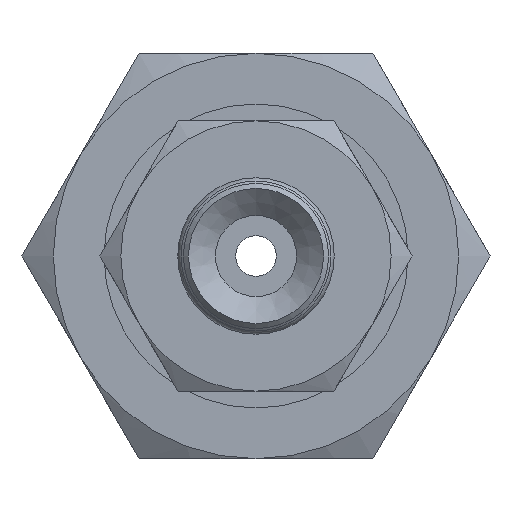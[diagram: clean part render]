
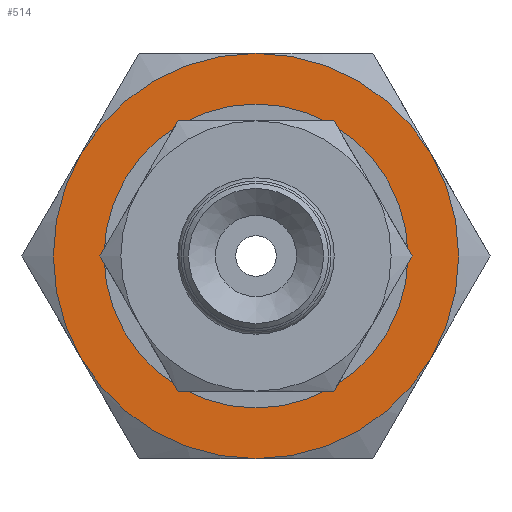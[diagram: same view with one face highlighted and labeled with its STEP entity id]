
A CAD part, front view. The second image highlights one B-rep face of the part: STEP entity #514.
In plain terms, the highlighted planar face has unit normal (0, -1, 0) as drawn and (-1, 0, 0) by its records, which use the part's own axes.
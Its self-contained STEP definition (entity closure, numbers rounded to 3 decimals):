
#514=ADVANCED_FACE('',(#741,#742),#743,.F.);
#741=FACE_BOUND('',#1115,.T.);
#742=FACE_OUTER_BOUND('',#1116,.T.);
#743=PLANE('',#1117);
#1115=EDGE_LOOP('',(#1977));
#1116=EDGE_LOOP('',(#1978,#1979,#1980,#1981,#1982,#1983));
#1117=AXIS2_PLACEMENT_3D('',#1984,#1985,#1986);
#1977=ORIENTED_EDGE('',*,*,#2667,.T.);
#1978=ORIENTED_EDGE('',*,*,#2660,.F.);
#1979=ORIENTED_EDGE('',*,*,#2636,.F.);
#1980=ORIENTED_EDGE('',*,*,#2628,.F.);
#1981=ORIENTED_EDGE('',*,*,#2668,.F.);
#1982=ORIENTED_EDGE('',*,*,#2656,.F.);
#1983=ORIENTED_EDGE('',*,*,#2657,.F.);
#1984=CARTESIAN_POINT('',(0.,0.0,0.0));
#1985=DIRECTION('',(1.0,0.0,0.0));
#1986=DIRECTION('',(0.0,1.0,0.0));
#2628=EDGE_CURVE('',#2953,#2954,#2955,.T.);
#2636=EDGE_CURVE('',#2954,#2968,#2969,.T.);
#2656=EDGE_CURVE('',#3001,#2990,#3003,.T.);
#2657=EDGE_CURVE('',#3004,#3001,#3005,.T.);
#2660=EDGE_CURVE('',#2968,#3004,#3009,.T.);
#2667=EDGE_CURVE('',#3016,#3016,#3017,.T.);
#2668=EDGE_CURVE('',#2990,#2953,#3018,.T.);
#2953=VERTEX_POINT('',#3493);
#2954=VERTEX_POINT('',#3494);
#2955=CIRCLE('',#3495,6.0);
#2968=VERTEX_POINT('',#3560);
#2969=CIRCLE('',#3561,6.0);
#2990=VERTEX_POINT('',#3655);
#3001=VERTEX_POINT('',#3726);
#3003=CIRCLE('',#3738,6.0);
#3004=VERTEX_POINT('',#3739);
#3005=CIRCLE('',#3740,6.0);
#3009=CIRCLE('',#3764,6.0);
#3016=VERTEX_POINT('',#3801);
#3017=CIRCLE('',#3802,4.0);
#3018=CIRCLE('',#3803,6.0);
#3493=CARTESIAN_POINT('',(0.,-5.196,-3.0));
#3494=CARTESIAN_POINT('',(0.,0.0,-6.0));
#3495=AXIS2_PLACEMENT_3D('',#4442,#4443,#4444);
#3560=CARTESIAN_POINT('',(0.,5.196,-3.0));
#3561=AXIS2_PLACEMENT_3D('',#4447,#4448,#4449);
#3655=CARTESIAN_POINT('',(0.,-5.196,3.0));
#3726=CARTESIAN_POINT('',(0.,0.0,6.0));
#3738=AXIS2_PLACEMENT_3D('',#4459,#4460,#4461);
#3739=CARTESIAN_POINT('',(0.,5.196,3.0));
#3740=AXIS2_PLACEMENT_3D('',#4462,#4463,#4464);
#3764=AXIS2_PLACEMENT_3D('',#4465,#4466,#4467);
#3801=CARTESIAN_POINT('',(0.,0.0,-4.0));
#3802=AXIS2_PLACEMENT_3D('',#4477,#4478,#4479);
#3803=AXIS2_PLACEMENT_3D('',#4480,#4481,#4482);
#4442=CARTESIAN_POINT('',(0.,0.0,0.0));
#4443=DIRECTION('',(1.0,0.0,0.0));
#4444=DIRECTION('',(0.0,0.0,-1.0));
#4447=CARTESIAN_POINT('',(0.,0.0,0.0));
#4448=DIRECTION('',(1.0,0.0,0.0));
#4449=DIRECTION('',(0.0,0.0,-1.0));
#4459=CARTESIAN_POINT('',(0.,0.0,0.0));
#4460=DIRECTION('',(1.0,0.0,0.0));
#4461=DIRECTION('',(0.0,0.0,-1.0));
#4462=CARTESIAN_POINT('',(0.,0.0,0.0));
#4463=DIRECTION('',(1.0,0.0,0.0));
#4464=DIRECTION('',(0.0,0.0,-1.0));
#4465=CARTESIAN_POINT('',(0.,0.0,0.0));
#4466=DIRECTION('',(1.0,0.0,0.0));
#4467=DIRECTION('',(0.0,0.0,-1.0));
#4477=CARTESIAN_POINT('',(0.,0.0,0.0));
#4478=DIRECTION('',(1.0,0.0,0.0));
#4479=DIRECTION('',(0.0,0.0,-1.0));
#4480=CARTESIAN_POINT('',(0.,0.0,0.0));
#4481=DIRECTION('',(1.0,0.0,0.0));
#4482=DIRECTION('',(0.0,0.0,-1.0));
